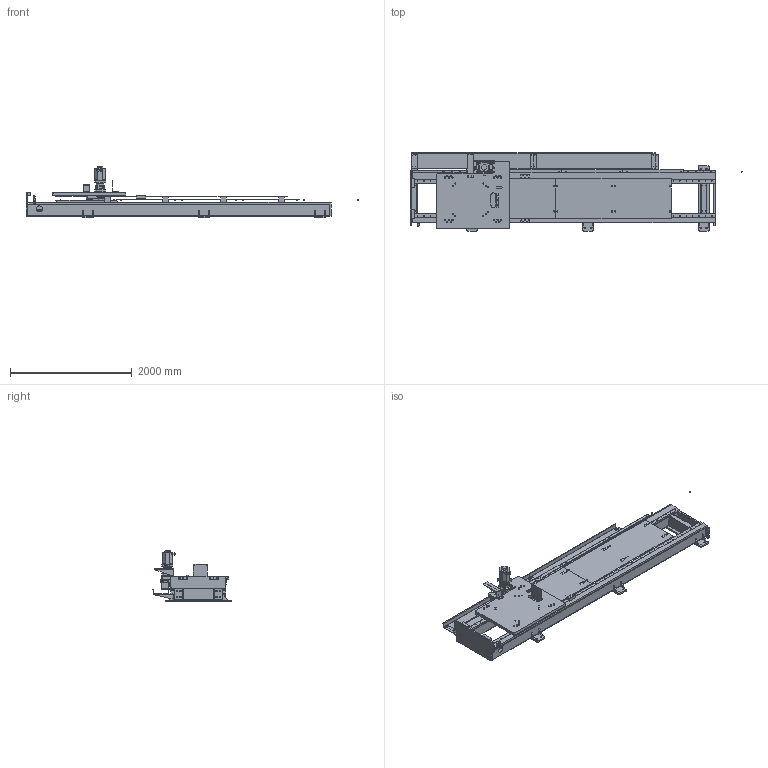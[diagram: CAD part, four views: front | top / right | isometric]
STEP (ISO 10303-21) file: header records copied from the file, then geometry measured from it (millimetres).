
FILE_DESCRIPTION (( 'STEP AP203' ), '1' );
FILE_NAME ('梓袧1000kg迍蟈俋离唳.STEP', '2021-10-27T06:55:53', ( '' ), ( '' ), 'SwSTEP 2.0', 'SolidWorks 2018', '' );
FILE_SCHEMA (( 'CONFIG_CONTROL_DESIGN' ));
Length unit declared in the file: millimetre
Products named in the file (39): 迍蟈羞; 樓詢U倰輸; CHTGH04010; 润滑齿轮轴; 寢耋爾諉遺殤; MA16014215101; 華寢蟀諉啣; 絳寢喘沭假蚾啣; 65-45樓Ч踐; 喘謫滅誘啣; helical gear_3_gb_GB - LH Helical gear 4M 25T 19°31′42″HA 20PA 40FW ---25B80H80L55.0R1; hex thin nuts-grades ab-chamfered gb_GB_FASTENER_NUT_STNAB M10-N; AB180-20-S2-P1; 5米地轨框架_默认<按加工>; 萇儂假蚾啣160; 絳寢假蚾啣; 滅誘盓傅啣; 癹弇羲壽尨砩; 華寢華褐; 梓袧1000kg迍蟈俋离唳; 迍蟈盓殤; 啣1; ais30萇儂; 菁窒遺殤5000; 2000  650豪恇啣; circlips for shaft--type a large gb_GB_CONNECTING_PIECE_RING_RRA 12; 熬厒儂假蚾啣; MA16014215304; 煦蚐ん; ST02机器人载板; 覃誹啣; MA16014215108; 滅袉菜; 润滑轮M4  T17; 癹弇結啣; 笢潔撻倛奪; 润滑安装座; 迍蟈盓傅啣; 润滑
Assembly tree (82 placements, depth 4):
  梓袧1000kg迍蟈俋离唳
    ST02机器人载板
    CHTGH04010
    樓詢U倰輸  x4
    癹弇結啣
    MA16014215108  x10
    MA16014215101  x3
    熬厒儂假蚾啣
      萇儂假蚾啣160
      AB180-20-S2-P1
      helical gear_3_gb_GB - LH Helical gear 4M 25T 19°31′42″HA 20PA 40FW ---25B80H80L55.0R1
      啣1
    迍蟈盓殤
    迍蟈羞  x2
    MA16014215304
    滅袉菜  x2
    煦蚐ん
    癹弇羲壽尨砩
    迍蟈盓傅啣  x3
    ais30萇儂
    覃誹啣
    喘謫滅誘啣
    润滑
      circlips for shaft--type a large gb_GB_CONNECTING_PIECE_RING_RRA 12
      润滑齿轮轴
      润滑轮M4  T17
      hex thin nuts-grades ab-chamfered gb_GB_FASTENER_NUT_STNAB M10-N
      润滑安装座
    菁窒遺殤5000
      寢耋爾諉遺殤
        5米地轨框架_默认<按加工>
        絳寢假蚾啣
        華寢蟀諉啣
        絳寢喘沭假蚾啣
      笢潔撻倛奪  x6
      華寢華褐  x3
      65-45樓Ч踐  x12
    滅誘盓傅啣  x8
    2000  650豪恇啣  x2
Bounding box: 5447.27 x 1280 x 844 mm (x, y, z)
Volume: 220431370.2 mm3; surface area: 37226575.8 mm2
Topology: 81 solids, 96 shells, 3341 faces, 8623 edges, 5506 vertices
Faces by surface type: cylinder 1613, plane 1205, cone 249, bspline 190, torus 84
Entity records: 362778 total; most frequent: CARTESIAN_POINT 296821, DIRECTION 12835, ORIENTED_EDGE 12532, EDGE_CURVE 6289, AXIS2_PLACEMENT_3D 5028, VERTEX_POINT 4071, EDGE_LOOP 3220, VECTOR 2779
